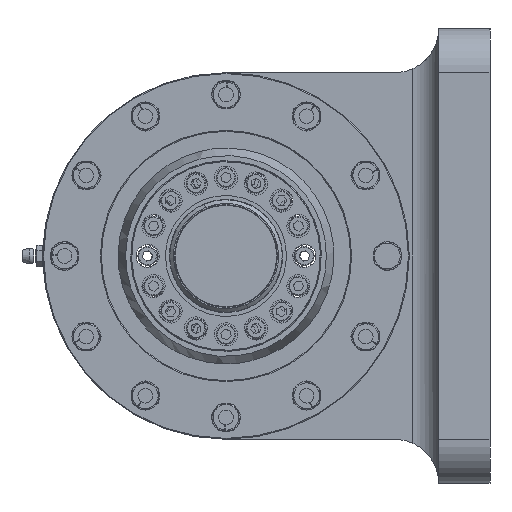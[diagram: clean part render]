
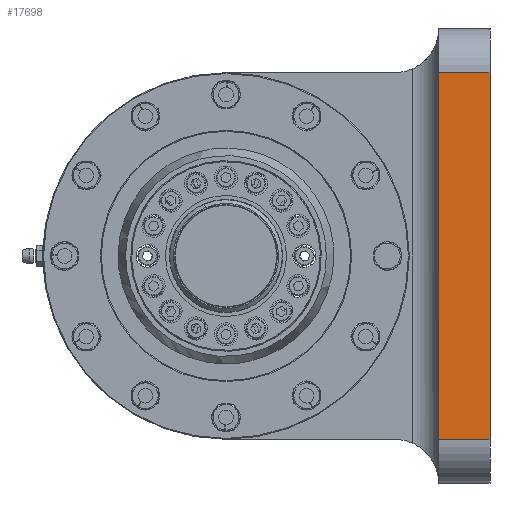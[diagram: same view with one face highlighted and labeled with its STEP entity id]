
A CAD part, left-side view. The second image highlights one B-rep face of the part: STEP entity #17698.
In plain terms, the highlighted planar face has unit normal (-1, 0, 0).
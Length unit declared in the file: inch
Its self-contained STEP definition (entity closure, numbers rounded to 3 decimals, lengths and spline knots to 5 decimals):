
#495 = ORIENTED_EDGE ( 'NONE', *, *, #56546, .T. ) ;
#5626 = VECTOR ( 'NONE', #47808, 39.37008 ) ;
#5647 = VECTOR ( 'NONE', #27371, 39.37008 ) ;
#7399 = PLANE ( 'NONE',  #21248 ) ;
#7443 = EDGE_CURVE ( 'NONE', #17877, #27367, #8244, .T. ) ;
#7538 = CARTESIAN_POINT ( 'NONE',  ( -16.2995, -4.5, -3.875 ) ) ;
#7542 = ORIENTED_EDGE ( 'NONE', *, *, #41146, .T. ) ;
#8244 = LINE ( 'NONE', #28066, #5626 ) ;
#8496 = VECTOR ( 'NONE', #38458, 39.37008 ) ;
#11870 = LINE ( 'NONE', #31652, #12160 ) ;
#12160 = VECTOR ( 'NONE', #51400, 39.37008 ) ;
#12953 = CARTESIAN_POINT ( 'NONE',  ( -16.2995, -2.875, 3.875 ) ) ;
#17202 = CARTESIAN_POINT ( 'NONE',  ( -16.2995, -4.5, -3.125 ) ) ;
#17698 = ADVANCED_FACE ( 'NONE', ( #51850 ), #7399, .F. ) ;
#17877 = VERTEX_POINT ( 'NONE', #24226 ) ;
#18701 = CARTESIAN_POINT ( 'NONE',  ( -16.2995, -3.625, 3.125 ) ) ;
#20307 = EDGE_CURVE ( 'NONE', #29472, #17877, #63043, .T. ) ;
#21248 = AXIS2_PLACEMENT_3D ( 'NONE', #12953, #32743, #52473 ) ;
#24226 = CARTESIAN_POINT ( 'NONE',  ( -16.2995, -3.625, 3.125 ) ) ;
#26267 = VERTEX_POINT ( 'NONE', #17202 ) ;
#27367 = VERTEX_POINT ( 'NONE', #37600 ) ;
#27371 = DIRECTION ( 'NONE',  ( 0., 0., 1. ) ) ;
#28066 = CARTESIAN_POINT ( 'NONE',  ( -16.2995, -3.625, 3.875 ) ) ;
#29472 = VERTEX_POINT ( 'NONE', #36078 ) ;
#30152 = EDGE_LOOP ( 'NONE', ( #42916, #7542, #495, #60706 ) ) ;
#31652 = CARTESIAN_POINT ( 'NONE',  ( -16.2995, -4.5, -3.125 ) ) ;
#32743 = DIRECTION ( 'NONE',  ( 1., 0., 0. ) ) ;
#36078 = CARTESIAN_POINT ( 'NONE',  ( -16.2995, -4.5, 3.125 ) ) ;
#37600 = CARTESIAN_POINT ( 'NONE',  ( -16.2995, -3.625, -3.125 ) ) ;
#38458 = DIRECTION ( 'NONE',  ( 0., 1., 0. ) ) ;
#41146 = EDGE_CURVE ( 'NONE', #27367, #26267, #11870, .T. ) ;
#42916 = ORIENTED_EDGE ( 'NONE', *, *, #7443, .T. ) ;
#47808 = DIRECTION ( 'NONE',  ( 0., 0., -1. ) ) ;
#51400 = DIRECTION ( 'NONE',  ( 0., -1., 0. ) ) ;
#51850 = FACE_OUTER_BOUND ( 'NONE', #30152, .T. ) ;
#51974 = LINE ( 'NONE', #7538, #5647 ) ;
#52473 = DIRECTION ( 'NONE',  ( 0., 1., 0. ) ) ;
#56546 = EDGE_CURVE ( 'NONE', #26267, #29472, #51974, .T. ) ;
#60706 = ORIENTED_EDGE ( 'NONE', *, *, #20307, .T. ) ;
#63043 = LINE ( 'NONE', #18701, #8496 ) ;
